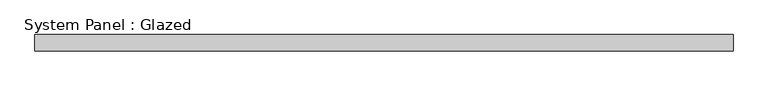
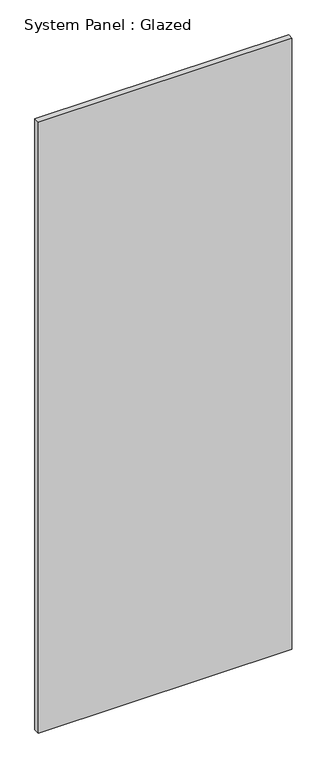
"""IFC4 building model written with IfcOpenShell, lengths in millimetres: plate geometry, System Panel : Glazed."""

from ifc_helpers import new_model, si_unit, origin, origin_with_axes, place, context, project, spatial, polyline, outline, extrude, source, transform, mapped, element, save


def system_panel_glazed_a6c4ca07(model_context):
    return source(origin(), model_context, "Body", "SweptSolid", [
        extrude(outline(polyline([(549.9999999, -44.45), (-549.9999999, -44.45), (-549.9999999, -19.05), (549.9999999, -19.05), (549.9999999, -44.45)])), origin_with_axes(), (0.0, 0.0, 1.0), 2800.0),
    ])


if __name__ == "__main__":
    model = new_model("IFC4")
    model_context = context("Model", 3, world=origin())
    ifc_project = project(units=[si_unit("LENGTHUNIT", "METRE", prefix="MILLI")], contexts=[model_context])
    site = spatial("IfcSite", under=ifc_project)
    building = spatial("IfcBuilding", under=site)
    placement = place(None, origin())
    system_panel_glazed_shape = system_panel_glazed_a6c4ca07(model_context)
    element("IfcPlate", 1, ObjectType="System Panel : Glazed", at=placement, inside=building, context=model_context, shape_type="MappedRepresentation", body=[
        mapped(system_panel_glazed_shape, transform((0.0, 0.0, 0.0), x_axis=(1.0, 0.0, 0.0), y_axis=(0.0, 1.0, 0.0), z_axis=(0.0, 0.0, 1.0))),
    ])
    save(model, "model.ifc")
